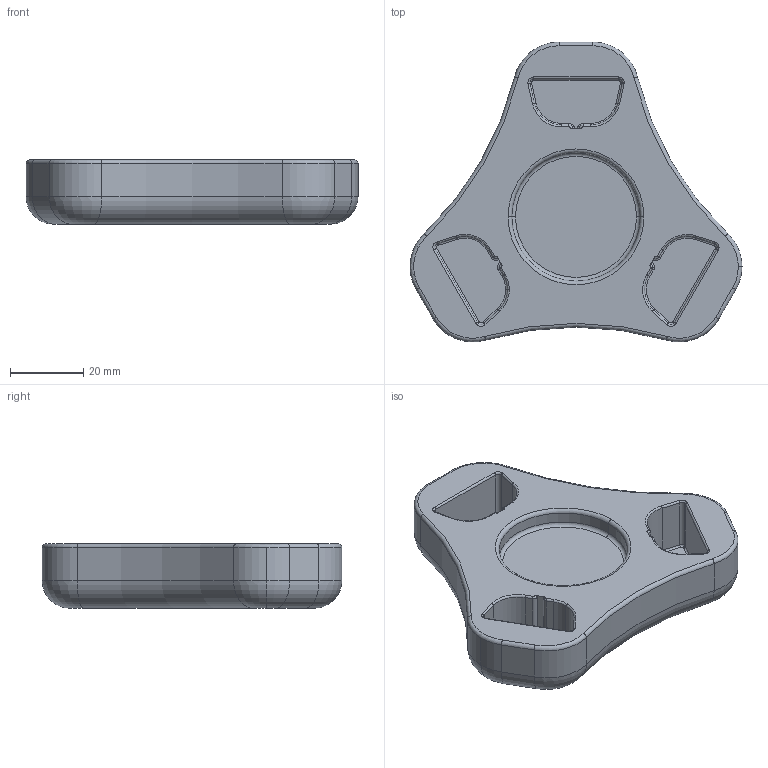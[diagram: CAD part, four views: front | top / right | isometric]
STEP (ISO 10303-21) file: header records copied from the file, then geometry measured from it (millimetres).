
FILE_DESCRIPTION (( 'STEP AP203' ), '1' );
FILE_NAME ('end_cap.STEP', '2026-02-26T11:27:02', ( '' ), ( '' ), 'SwSTEP 2.0', 'SolidWorks 2025', '' );
FILE_SCHEMA (( 'CONFIG_CONTROL_DESIGN' ));
Length unit declared in the file: millimetre
Products named in the file (1): end_cap
Bounding box: 90.47 x 81.69 x 17.5 mm (x, y, z)
Volume: 63138.1 mm3; surface area: 17225.5 mm2
Topology: 1 solids, 1 shells, 219 faces, 512 edges, 301 vertices
Faces by surface type: cylinder 94, torus 76, plane 49
Entity records: 6318 total; most frequent: DIRECTION 1219, CARTESIAN_POINT 1081, ORIENTED_EDGE 1024, EDGE_CURVE 512, AXIS2_PLACEMENT_3D 503, VERTEX_POINT 301, CIRCLE 283, EDGE_LOOP 225
